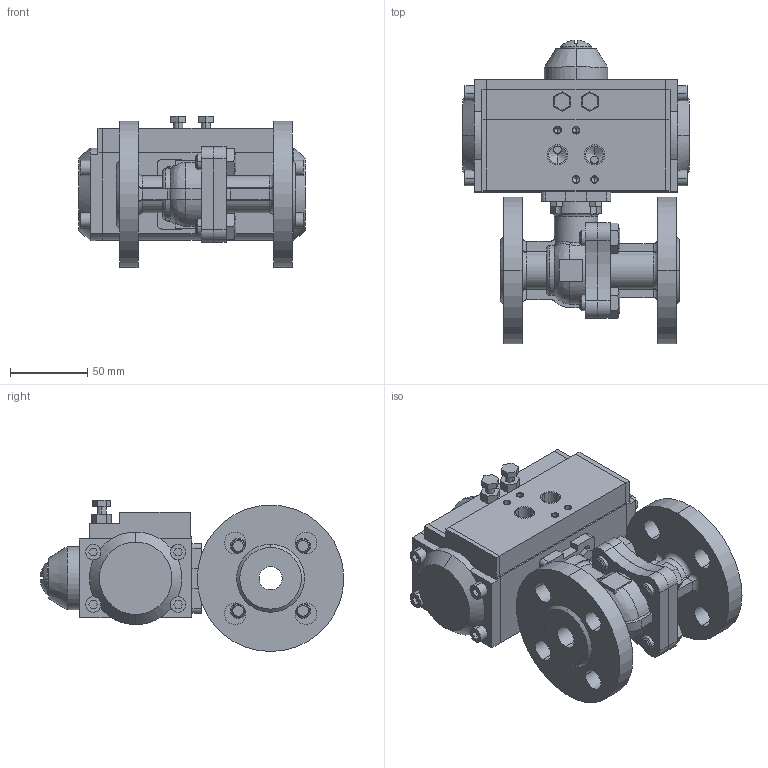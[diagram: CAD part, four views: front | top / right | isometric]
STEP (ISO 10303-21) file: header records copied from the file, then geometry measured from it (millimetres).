
FILE_DESCRIPTION((''),'2;1');
FILE_NAME('BV-22F_RPA_ASM','2024-09-11T',('USER'),(''),'PRO/ENGINEER BY PARAMETRIC TECHNOLOGY CORPORATION, 2011220','PRO/ENGINEER BY PARAMETRIC TECHNOLOGY CORPORATION, 2011220','');
FILE_SCHEMA(('CONFIG_CONTROL_DESIGN'));
Length unit declared in the file: millimetre
Products named in the file (12): KORPUS_KRAN_FL; B-7798-M10-20; SB_KRAN_FL_ASM; KORPUS_PNEVMOPRIVOD; KOLCO_14_GOST13942; KRISKA_VERX; VINT; KRISKA_LEFT; KRISKA_RIGHT; SB_PNEVMOPRIVOD_ASM; BOLT; BV-22F_RPA_ASM
Assembly tree (17 placements, depth 3):
  BV-22F_RPA_ASM
    SB_KRAN_FL_ASM
      KORPUS_KRAN_FL
      B-7798-M10-20  x4
    SB_PNEVMOPRIVOD_ASM
      KORPUS_PNEVMOPRIVOD
      KOLCO_14_GOST13942
      KRISKA_VERX
      VINT
      KRISKA_LEFT
      KRISKA_RIGHT
    BOLT  x4
Bounding box: 147 x 196.93 x 98 mm (x, y, z)
Volume: 958915.3 mm3; surface area: 169522.9 mm2
Topology: 15 solids, 49 shells, 788 faces, 2008 edges, 1295 vertices
Faces by surface type: plane 395, cylinder 286, cone 74, torus 17, bspline 14, sphere 2
Entity records: 22246 total; most frequent: CARTESIAN_POINT 4918, DIRECTION 3719, ORIENTED_EDGE 3356, EDGE_CURVE 1736, AXIS2_PLACEMENT_3D 1350, VERTEX_POINT 1145, VECTOR 1019, LINE 1019
